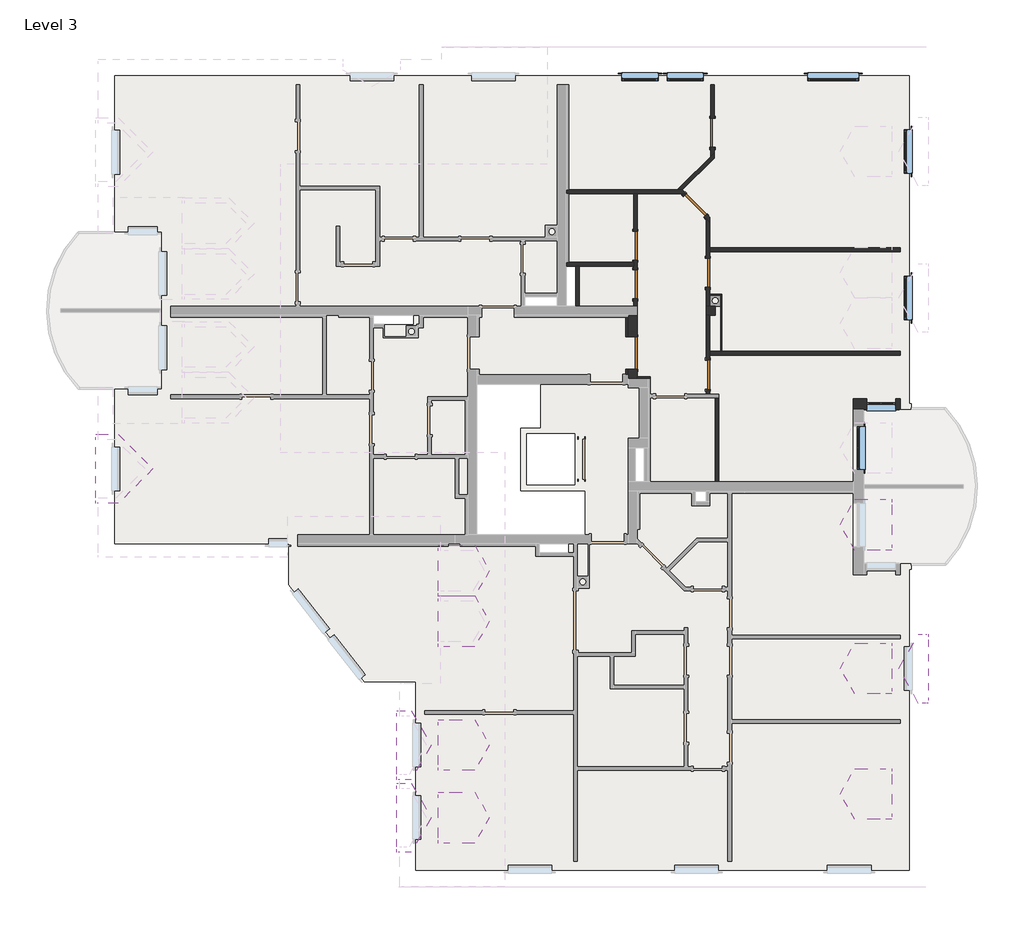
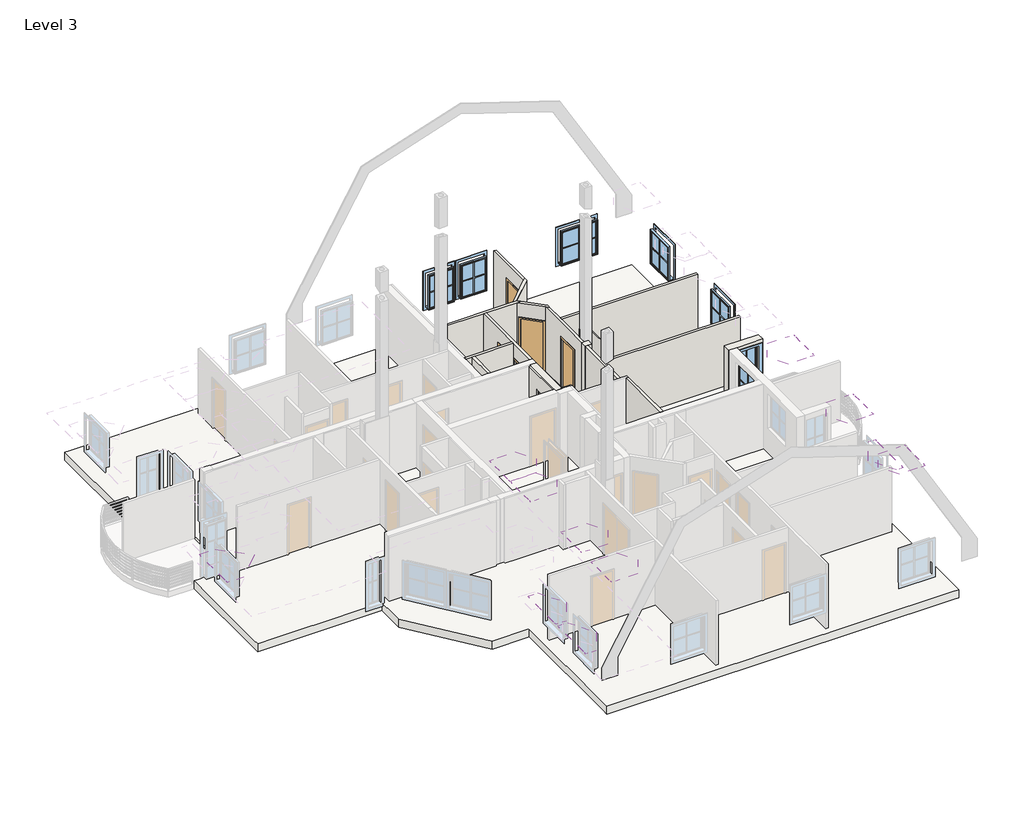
# One storey, part 3 of 5: 19 walls, 11 roofs, 7 doors, 7 windows, 1 slab.
"""IFC4 building model written with IfcOpenShell, lengths in millimetres."""

from ifc_helpers import new_model, si_unit, frame, origin, place, context, project, spatial, polyline, outline, extrude, faceted_brep, transform, mapped, element, save
from components import standard_door_sd_800x2000_6a16926d, standard_door_sd_800x2000_80f4ff25, standard_door_sd_900x2000_a6683946, standard_window_with_mullions_d3525f46, standard_window_with_mullions_80486b60, standard_window_with_mullions_12e20a72, window_2_4fa60929

model = new_model("IFC4")

# Units and contexts
model_context = context("Model", 3, world=origin())
ifc_project = project(units=[si_unit("LENGTHUNIT", "METRE", prefix="MILLI")], contexts=[model_context])

# Site, building, storey
site = spatial("IfcSite", under=ifc_project)
building = spatial("IfcBuilding", under=site)
storey = spatial("IfcBuildingStorey", under=building, Name="Level 3", Elevation=8850.0)

# Doors
placement = place(None, origin())
standard_door_sd_800x2000_shape = standard_door_sd_800x2000_6a16926d(model_context)
element("IfcDoor", 1, ObjectType="Standard Door : SD 800x2000", at=placement, inside=storey, context=model_context, shape_type="MappedRepresentation", body=[
    mapped(standard_door_sd_800x2000_shape, transform((1762.8037835, 5063.1824611, 8850.0), x_axis=(0.0, 1.0, 0.0), y_axis=(-1.0, 0.0, 0.0), z_axis=(0.0, 0.0, 1.0))),
])
element("IfcDoor", 2, ObjectType="Standard Door : SD 800x2000", at=placement, inside=storey, context=model_context, shape_type="MappedRepresentation", body=[
    mapped(standard_door_sd_800x2000_shape, transform((3887.8037835, 9237.6290541, 8850.0), x_axis=(0.0, -1.0, 0.0), y_axis=(1.0, 0.0, 0.0), z_axis=(0.0, 0.0, 1.0))),
])
standard_door_sd_800x2000_2_shape = standard_door_sd_800x2000_80f4ff25(model_context)
element("IfcDoor", 3, ObjectType="Standard Door : SD 800x2000", at=placement, inside=storey, context=model_context, shape_type="MappedRepresentation", body=[
    mapped(standard_door_sd_800x2000_2_shape, transform((3762.8037835, 2576.2076972, 8850.0), x_axis=(0.0, -1.0, 0.0), y_axis=(1.0, 0.0, 0.0), z_axis=(0.0, 0.0, 1.0))),
])
element("IfcDoor", 4, ObjectType="Standard Door : SD 800x2000", at=placement, inside=storey, context=model_context, shape_type="MappedRepresentation", body=[
    mapped(standard_door_sd_800x2000_2_shape, transform((3762.8037835, 5382.3912195, 8850.0), x_axis=(0.0, -1.0, 0.0), y_axis=(1.0, 0.0, 0.0), z_axis=(0.0, 0.0, 1.0))),
])
element("IfcDoor", 5, ObjectType="Standard Door : SD 800x2000", at=placement, inside=storey, context=model_context, shape_type="MappedRepresentation", body=[
    mapped(standard_door_sd_800x2000_2_shape, transform((3410.8458954, 7240.2976203, 8850.0), x_axis=(0.7071067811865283, -0.7071067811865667, 0.0), y_axis=(0.7071067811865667, 0.7071067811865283, 0.0), z_axis=(0.0, 0.0, 1.0))),
])
element("IfcDoor", 6, ObjectType="Standard Door : SD 800x2000", at=placement, inside=storey, context=model_context, shape_type="MappedRepresentation", body=[
    mapped(standard_door_sd_800x2000_2_shape, transform((1762.8037835, 6127.9240135, 8850.0), x_axis=(0.0, -1.0, 0.0), y_axis=(1.0, 0.0, 0.0), z_axis=(0.0, 0.0, 1.0))),
])
standard_door_sd_900x2000_shape = standard_door_sd_900x2000_a6683946(model_context)
element("IfcDoor", 7, ObjectType="Standard Door : SD 900x2000", at=placement, inside=storey, context=model_context, shape_type="MappedRepresentation", body=[
    mapped(standard_door_sd_900x2000_shape, transform((1687.8037835, 3171.1987133, 8850.0), x_axis=(0.0, 1.0, 0.0), y_axis=(-1.0, 0.0, 0.0), z_axis=(0.0, 0.0, 1.0))),
])

# Roofs
element("IfcRoof", 8, ObjectType="Dormer", at=placement, inside=storey, context=model_context, shape_type="Brep", body=[
    faceted_brep([(-13107.1962165, 929.8653683, 10859.1168825), (-13107.1962165, 779.8653683, 10859.1168825), (-13107.1962165, 779.8653683, 11350.0), (-13107.1962165, -20.1346317, 12150.0), (-13107.1962165, -820.1346317, 11350.0), (-13107.1962165, -820.1346317, 10859.1168825), (-13107.1962165, -970.1346317, 10859.1168825), (-13107.1962165, -970.1346317, 11412.1320344), (-13107.1962165, -20.1346317, 12362.1320344), (-13107.1962165, 929.8653683, 11412.1320344), (-12484.1810646, 929.8653683, 11412.1320344), (-13037.1962165, 929.8653683, 10859.1168825), (-11534.1810646, -20.1346317, 12362.1320344), (-12484.1810646, -970.1346317, 11412.1320344), (-13037.1962165, -970.1346317, 10859.1168825), (-13037.1962165, -820.1346317, 10859.1168825), (-12546.313099, -820.1346317, 11350.0), (-11746.313099, -20.1346317, 12150.0), (-12546.313099, 779.8653683, 11350.0), (-13037.1962165, 779.8653683, 10859.1168825)], [[[0, 1, 2, 3, 4, 5, 6, 7, 8, 9]], [[10, 11, 0, 9]], [[12, 10, 9, 8]], [[13, 12, 8, 7]], [[14, 13, 7, 6]], [[15, 14, 6, 5]], [[16, 15, 5, 4]], [[17, 16, 4, 3]], [[18, 17, 3, 2]], [[19, 18, 2, 1]], [[11, 19, 1, 0]], [[11, 10, 12, 13, 14, 15, 16, 17, 18, 19]]]),
])
element("IfcRoof", 9, ObjectType="Dormer", at=placement, inside=storey, context=model_context, shape_type="Brep", body=[
    faceted_brep([(-4807.1962165, -8582.3709452, 10859.1168825), (-4807.1962165, -8582.3709452, 11412.1320344), (-4807.1962165, -7632.3709452, 12362.1320344), (-4807.1962165, -6682.3709452, 11412.1320344), (-4807.1962165, -6682.3709452, 10859.1168825), (-4807.1962165, -6832.3709452, 10859.1168825), (-4807.1962165, -6832.3709452, 11350.0), (-4807.1962165, -7632.3709452, 12150.0), (-4807.1962165, -8432.3709452, 11350.0), (-4807.1962165, -8432.3709452, 10859.1168825), (-4737.1962165, -8582.3709452, 10859.1168825), (-4417.9127697, -8582.3709452, 11412.1320344), (-3869.430014, -7632.3709452, 12362.1320344), (-4417.9127697, -6682.3709452, 11412.1320344), (-4737.1962165, -6682.3709452, 10859.1168825), (-4737.1962165, -6832.3709452, 10859.1168825), (-4453.7847165, -6832.3709452, 11350.0), (-3991.9045011, -7632.3709452, 12150.0), (-4453.7847165, -8432.3709452, 11350.0), (-4737.1962165, -8432.3709452, 10859.1168825)], [[[0, 1, 2, 3, 4, 5, 6, 7, 8, 9]], [[1, 0, 10, 11]], [[2, 1, 11, 12]], [[3, 2, 12, 13]], [[4, 3, 13, 14]], [[5, 4, 14, 15]], [[6, 5, 15, 16]], [[7, 6, 16, 17]], [[8, 7, 17, 18]], [[9, 8, 18, 19]], [[0, 9, 19, 10]], [[10, 19, 18, 17, 16, 15, 14, 13, 12, 11]]]),
])
element("IfcRoof", 10, ObjectType="Dormer", at=placement, inside=storey, context=model_context, shape_type="Brep", body=[
    faceted_brep([(-4807.1962165, -10582.3709452, 10859.1168825), (-4807.1962165, -10582.3709452, 11412.1320344), (-4807.1962165, -9632.3709452, 12362.1320344), (-4807.1962165, -8682.3709452, 11412.1320344), (-4807.1962165, -8682.3709452, 10859.1168825), (-4807.1962165, -8832.3709452, 10859.1168825), (-4807.1962165, -8832.3709452, 11350.0), (-4807.1962165, -9632.3709452, 12150.0), (-4807.1962165, -10432.3709452, 11350.0), (-4807.1962165, -10432.3709452, 10859.1168825), (-4737.1962165, -10582.3709452, 10859.1168825), (-4417.9127697, -10582.3709452, 11412.1320344), (-3869.430014, -9632.3709452, 12362.1320344), (-4417.9127697, -8682.3709452, 11412.1320344), (-4737.1962165, -8682.3709452, 10859.1168825), (-4737.1962165, -8832.3709452, 10859.1168825), (-4453.7847165, -8832.3709452, 11350.0), (-3991.9045011, -9632.3709452, 12150.0), (-4453.7847165, -10432.3709452, 11350.0), (-4737.1962165, -10432.3709452, 10859.1168825)], [[[0, 1, 2, 3, 4, 5, 6, 7, 8, 9]], [[1, 0, 10, 11]], [[2, 1, 11, 12]], [[3, 2, 12, 13]], [[4, 3, 13, 14]], [[5, 4, 14, 15]], [[6, 5, 15, 16]], [[7, 6, 16, 17]], [[8, 7, 17, 18]], [[9, 8, 18, 19]], [[0, 9, 19, 10]], [[10, 19, 18, 17, 16, 15, 14, 13, 12, 11]]]),
])
element("IfcRoof", 11, ObjectType="Dormer", at=placement, inside=storey, context=model_context, shape_type="Brep", body=[
    faceted_brep([(-3668.9496412, -3527.3709459, 13245.9738747), (-3668.9496412, -3527.3709459, 14450.0), (-3668.9496412, -2827.3709459, 15150.0), (-3668.9496412, -2127.3709459, 14450.0), (-3668.9496412, -2127.3709459, 13239.8778747), (-3668.9496412, -2277.3709459, 13239.8778747), (-3668.9496412, -2277.3709459, 14387.8679656), (-3668.9496412, -2827.3709459, 14937.8679656), (-3668.9496412, -3377.3709459, 14387.8679656), (-3668.9496412, -3377.3709459, 13245.9738747), (-3359.1436895, -3527.3709459, 13245.9738747), (-2663.998882, -3527.3709459, 14450.0), (-2259.8536936, -2827.3709459, 15150.0), (-2663.998882, -2127.3709459, 14450.0), (-3362.6632168, -2127.3709459, 13239.8778747), (-3362.6632168, -2277.3709459, 13239.8778747), (-2699.8708287, -2277.3709459, 14387.8679656), (-2382.3281807, -2827.3709459, 14937.8679656), (-2699.8708287, -3377.3709459, 14387.8679656), (-3359.1436895, -3377.3709459, 13245.9738747)], [[[0, 1, 2, 3, 4, 5, 6, 7, 8, 9]], [[1, 0, 10, 11]], [[2, 1, 11, 12]], [[3, 2, 12, 13]], [[4, 3, 13, 14]], [[5, 4, 14, 15]], [[6, 5, 15, 16]], [[7, 6, 16, 17]], [[8, 7, 17, 18]], [[9, 8, 18, 19]], [[0, 9, 19, 10]], [[10, 19, 18, 17, 16, 15, 14, 13, 12, 11]]]),
])
element("IfcRoof", 12, ObjectType="Dormer", at=placement, inside=storey, context=model_context, shape_type="Brep", body=[
    faceted_brep([(-3668.9496412, -4922.3709459, 13245.9738747), (-3668.9496412, -4922.3709459, 14450.0), (-3668.9496412, -4222.3709459, 15150.0), (-3668.9496412, -3522.3709459, 14450.0), (-3668.9496412, -3522.3709459, 13239.8778747), (-3668.9496412, -3672.3709459, 13239.8778747), (-3668.9496412, -3672.3709459, 14387.8679656), (-3668.9496412, -4222.3709459, 14937.8679656), (-3668.9496412, -4772.3709459, 14387.8679656), (-3668.9496412, -4772.3709459, 13245.9738747), (-3359.1436895, -4922.3709459, 13245.9738747), (-2663.998882, -4922.3709459, 14450.0), (-2259.8536936, -4222.3709459, 15150.0), (-2663.998882, -3522.3709459, 14450.0), (-3362.6632168, -3522.3709459, 13239.8778747), (-3362.6632168, -3672.3709459, 13239.8778747), (-2699.8708287, -3672.3709459, 14387.8679656), (-2382.3281807, -4222.3709459, 14937.8679656), (-2699.8708287, -4772.3709459, 14387.8679656), (-3359.1436895, -4772.3709459, 13245.9738747)], [[[0, 1, 2, 3, 4, 5, 6, 7, 8, 9]], [[1, 0, 10, 11]], [[2, 1, 11, 12]], [[3, 2, 12, 13]], [[4, 3, 13, 14]], [[5, 4, 14, 15]], [[6, 5, 15, 16]], [[7, 6, 16, 17]], [[8, 7, 17, 18]], [[9, 8, 18, 19]], [[0, 9, 19, 10]], [[10, 19, 18, 17, 16, 15, 14, 13, 12, 11]]]),
])
element("IfcRoof", 13, ObjectType="Dormer", at=placement, inside=storey, context=model_context, shape_type="Brep", body=[
    faceted_brep([(-3668.9496412, -8332.3709452, 13245.9738747), (-3668.9496412, -8332.3709452, 14450.0), (-3668.9496412, -7632.3709452, 15150.0), (-3668.9496412, -6932.3709452, 14450.0), (-3668.9496412, -6932.3709452, 13239.8778747), (-3668.9496412, -7082.3709452, 13239.8778747), (-3668.9496412, -7082.3709452, 14387.8679656), (-3668.9496412, -7632.3709452, 14937.8679656), (-3668.9496412, -8182.3709452, 14387.8679656), (-3668.9496412, -8182.3709452, 13245.9738747), (-3359.1436895, -8332.3709452, 13245.9738747), (-2663.998882, -8332.3709452, 14450.0), (-2259.8536936, -7632.3709452, 15150.0), (-2663.998882, -6932.3709452, 14450.0), (-3362.6632168, -6932.3709452, 13239.8778747), (-3362.6632168, -7082.3709452, 13239.8778747), (-2699.8708287, -7082.3709452, 14387.8679656), (-2382.3281807, -7632.3709452, 14937.8679656), (-2699.8708287, -8182.3709452, 14387.8679656), (-3359.1436895, -8182.3709452, 13245.9738747)], [[[0, 1, 2, 3, 4, 5, 6, 7, 8, 9]], [[1, 0, 10, 11]], [[2, 1, 11, 12]], [[3, 2, 12, 13]], [[4, 3, 13, 14]], [[5, 4, 14, 15]], [[6, 5, 15, 16]], [[7, 6, 16, 17]], [[8, 7, 17, 18]], [[9, 8, 18, 19]], [[0, 9, 19, 10]], [[10, 19, 18, 17, 16, 15, 14, 13, 12, 11]]]),
])
element("IfcRoof", 14, ObjectType="Dormer", at=placement, inside=storey, context=model_context, shape_type="Brep", body=[
    faceted_brep([(-3668.9496412, -10332.3709452, 13245.9738747), (-3668.9496412, -10332.3709452, 14450.0), (-3668.9496412, -9632.3709452, 15150.0), (-3668.9496412, -8932.3709452, 14450.0), (-3668.9496412, -8932.3709452, 13239.8778747), (-3668.9496412, -9082.3709452, 13239.8778747), (-3668.9496412, -9082.3709452, 14387.8679656), (-3668.9496412, -9632.3709452, 14937.8679656), (-3668.9496412, -10182.3709452, 14387.8679656), (-3668.9496412, -10182.3709452, 13245.9738747), (-3359.1436895, -10332.3709452, 13245.9738747), (-2663.998882, -10332.3709452, 14450.0), (-2259.8536936, -9632.3709452, 15150.0), (-2663.998882, -8932.3709452, 14450.0), (-3362.6632168, -8932.3709452, 13239.8778747), (-3362.6632168, -9082.3709452, 13239.8778747), (-2699.8708287, -9082.3709452, 14387.8679656), (-2382.3281807, -9632.3709452, 14937.8679656), (-2699.8708287, -10182.3709452, 14387.8679656), (-3359.1436895, -10182.3709452, 13245.9738747)], [[[0, 1, 2, 3, 4, 5, 6, 7, 8, 9]], [[1, 0, 10, 11]], [[2, 1, 11, 12]], [[3, 2, 12, 13]], [[4, 3, 13, 14]], [[5, 4, 14, 15]], [[6, 5, 15, 16]], [[7, 6, 16, 17]], [[8, 7, 17, 18]], [[9, 8, 18, 19]], [[0, 9, 19, 10]], [[10, 19, 18, 17, 16, 15, 14, 13, 12, 11]]]),
])
element("IfcRoof", 15, ObjectType="Dormer", at=placement, inside=storey, context=model_context, shape_type="Brep", body=[
    faceted_brep([(8827.3155772, -9682.3709459, 13245.9738747), (8827.3155772, -9532.3709459, 13245.9738747), (8827.3155772, -9532.3709459, 14387.8679656), (8827.3155772, -8982.3709459, 14937.8679656), (8827.3155772, -8432.3709459, 14387.8679656), (8827.3155772, -8432.3709459, 13239.8778747), (8827.3155772, -8282.3709459, 13239.8778747), (8827.3155772, -8282.3709459, 14450.0), (8827.3155772, -8982.3709459, 15150.0), (8827.3155772, -9682.3709459, 14450.0), (7811.3598736, -9682.3709459, 14450.0), (8506.5046811, -9682.3709459, 13245.9738747), (7407.2146852, -8982.3709459, 15150.0), (7811.3598736, -8282.3709459, 14450.0), (8510.0242084, -8282.3709459, 13239.8778747), (8510.0242084, -8432.3709459, 13239.8778747), (7847.2318204, -8432.3709459, 14387.8679656), (7529.6891723, -8982.3709459, 14937.8679656), (7847.2318204, -9532.3709459, 14387.8679656), (8506.5046811, -9532.3709459, 13245.9738747)], [[[0, 1, 2, 3, 4, 5, 6, 7, 8, 9]], [[10, 11, 0, 9]], [[12, 10, 9, 8]], [[13, 12, 8, 7]], [[14, 13, 7, 6]], [[15, 14, 6, 5]], [[16, 15, 5, 4]], [[17, 16, 4, 3]], [[18, 17, 3, 2]], [[19, 18, 2, 1]], [[11, 19, 1, 0]], [[11, 10, 12, 13, 14, 15, 16, 17, 18, 19]]]),
])
element("IfcRoof", 16, ObjectType="Dormer", at=placement, inside=storey, context=model_context, shape_type="Brep", body=[
    faceted_brep([(8827.3155772, -6224.0530367, 13245.9738747), (8827.3155772, -6074.0530367, 13245.9738747), (8827.3155772, -6074.0530367, 14387.8679656), (8827.3155772, -5524.0530367, 14937.8679656), (8827.3155772, -4974.0530367, 14387.8679656), (8827.3155772, -4974.0530367, 13239.8778747), (8827.3155772, -4824.0530367, 13239.8778747), (8827.3155772, -4824.0530367, 14450.0), (8827.3155772, -5524.0530367, 15150.0), (8827.3155772, -6224.0530367, 14450.0), (7811.3598736, -6224.0530367, 14450.0), (8506.5046811, -6224.0530367, 13245.9738747), (7407.2146852, -5524.0530367, 15150.0), (7811.3598736, -4824.0530367, 14450.0), (8510.0242084, -4824.0530367, 13239.8778747), (8510.0242084, -4974.0530367, 13239.8778747), (7847.2318204, -4974.0530367, 14387.8679656), (7529.6891723, -5524.0530367, 14937.8679656), (7847.2318204, -6074.0530367, 14387.8679656), (8506.5046811, -6074.0530367, 13245.9738747)], [[[0, 1, 2, 3, 4, 5, 6, 7, 8, 9]], [[10, 11, 0, 9]], [[12, 10, 9, 8]], [[13, 12, 8, 7]], [[14, 13, 7, 6]], [[15, 14, 6, 5]], [[16, 15, 5, 4]], [[17, 16, 4, 3]], [[18, 17, 3, 2]], [[19, 18, 2, 1]], [[11, 19, 1, 0]], [[11, 10, 12, 13, 14, 15, 16, 17, 18, 19]]]),
])
element("IfcRoof", 17, ObjectType="Dormer", at=placement, inside=storey, context=model_context, shape_type="Brep", body=[
    faceted_brep([(8827.3155772, -2263.5367865, 13245.9738747), (8827.3155772, -2113.5367865, 13245.9738747), (8827.3155772, -2113.5367865, 14387.8679656), (8827.3155772, -1563.5367865, 14937.8679656), (8827.3155772, -1013.5367865, 14387.8679656), (8827.3155772, -1013.5367865, 13239.8778747), (8827.3155772, -863.5367865, 13239.8778747), (8827.3155772, -863.5367865, 14450.0), (8827.3155772, -1563.5367865, 15150.0), (8827.3155772, -2263.5367865, 14450.0), (7811.3598736, -2263.5367865, 14450.0), (8506.5046811, -2263.5367865, 13245.9738747), (7407.2146852, -1563.5367865, 15150.0), (7811.3598736, -863.5367865, 14450.0), (8510.0242084, -863.5367865, 13239.8778747), (8510.0242084, -1013.5367865, 13239.8778747), (7847.2318204, -1013.5367865, 14387.8679656), (7529.6891723, -1563.5367865, 14937.8679656), (7847.2318204, -2113.5367865, 14387.8679656), (8506.5046811, -2113.5367865, 13245.9738747)], [[[0, 1, 2, 3, 4, 5, 6, 7, 8, 9]], [[10, 11, 0, 9]], [[12, 10, 9, 8]], [[13, 12, 8, 7]], [[14, 13, 7, 6]], [[15, 14, 6, 5]], [[16, 15, 5, 4]], [[17, 16, 4, 3]], [[18, 17, 3, 2]], [[19, 18, 2, 1]], [[11, 19, 1, 0]], [[11, 10, 12, 13, 14, 15, 16, 17, 18, 19]]]),
])
element("IfcRoof", 18, ObjectType="Dormer", at=placement, inside=storey, context=model_context, shape_type="Brep", body=[
    faceted_brep([(9832.8037835, -6474.0530367, 10859.1168825), (9832.8037835, -6324.0530367, 10859.1168825), (9832.8037835, -6324.0530367, 11350.0), (9832.8037835, -5524.0530367, 12150.0), (9832.8037835, -4724.0530367, 11350.0), (9832.8037835, -4724.0530367, 10859.1168825), (9832.8037835, -4574.0530367, 10859.1168825), (9832.8037835, -4574.0530367, 11412.1320344), (9832.8037835, -5524.0530367, 12362.1320344), (9832.8037835, -6474.0530367, 11412.1320344), (9565.2737613, -6474.0530367, 11412.1320344), (9762.8037835, -6474.0530367, 11070.0), (9762.8037835, -6474.0530367, 10859.1168825), (9016.7910056, -5524.0530367, 12362.1320344), (9565.2737613, -4574.0530367, 11412.1320344), (9762.8037835, -4574.0530367, 10859.1168825), (9762.8037835, -4574.0530367, 11070.0), (9762.8037835, -4724.0530367, 10859.1168825), (9601.1457081, -4724.0530367, 11350.0), (9762.8037835, -4724.0530367, 11070.0), (9139.2654927, -5524.0530367, 12150.0), (9601.1457081, -6324.0530367, 11350.0), (9762.8037835, -6324.0530367, 10859.1168825), (9762.8037835, -6324.0530367, 11070.0)], [[[0, 1, 2, 3, 4, 5, 6, 7, 8, 9]], [[10, 11, 12, 0, 9]], [[13, 10, 9, 8]], [[14, 13, 8, 7]], [[15, 16, 14, 7, 6]], [[17, 15, 6, 5]], [[18, 19, 17, 5, 4]], [[20, 18, 4, 3]], [[21, 20, 3, 2]], [[22, 23, 21, 2, 1]], [[12, 22, 1, 0]], [[12, 11, 23, 22]], [[11, 10, 13, 14, 16, 19, 18, 20, 21, 23]], [[16, 15, 17, 19]]]),
])

# Slab
element("IfcSlab", 19, ObjectType="STB200 + 120", at=placement, inside=storey, context=model_context, shape_type="Brep", body=[
    faceted_brep([(9312.8037835, 10817.6290541, 8530.0), (9312.8037835, 10567.6290541, 8530.0), (9312.8037835, 1767.6290541, 8530.0), (9362.8037835, 1767.6290541, 8530.0), (9362.8037835, 1667.6290541, 8530.0), (8012.8037835, 1667.6290541, 8530.0), (8012.8037835, -2682.3709459, 8530.0), (9362.8037835, -2682.3709459, 8530.0), (9362.8037835, -2782.3709459, 8530.0), (9312.8037835, -2782.3709459, 8530.0), (9312.8037835, -11082.3709459, 8530.0), (9062.8037835, -11082.3709459, 8530.0), (-4287.1962165, -11082.3709459, 8530.0), (-4287.1962165, -10832.3709459, 8530.0), (-4287.1962165, -5882.3709459, 8530.0), (-4337.1962165, -5882.3709459, 8530.0), (-5712.7420262, -5882.3709459, 8530.0), (-5907.1864707, -5632.3709459, 8530.0), (-7787.1962165, -3215.2155584, 8530.0), (-7787.1962165, -2808.0100494, 8530.0), (-7787.1962165, -2082.3709459, 8530.0), (-7837.1962165, -2082.3709459, 8530.0), (-12587.1962165, -2082.3709459, 8530.0), (-12587.1962165, -1832.3709459, 8530.0), (-12587.1962165, 2167.6290541, 8530.0), (-12337.1962165, 2167.6290541, 8530.0), (-11287.1962165, 2167.6290541, 8530.0), (-11287.1962165, 2217.6290541, 8530.0), (-11287.1962165, 6467.6290541, 8530.0), (-11287.1962165, 6517.6290541, 8530.0), (-12587.1962165, 6517.6290541, 8530.0), (-12587.1962165, 6767.6290541, 8530.0), (-12587.1962165, 10817.6290541, 8530.0), (-12337.1962165, 10817.6290541, 8530.0), (-2607.1962165, 2317.6290541, 8530.0), (-2607.1962165, -1832.3709459, 8530.0), (362.8037835, -1832.3709459, 8530.0), (362.8037835, -632.3709459, 8530.0), (-1407.1962165, -632.3709459, 8530.0), (-1407.1962165, 1117.6290541, 8530.0), (-857.1962165, 1117.6290541, 8530.0), (-857.1962165, 2317.6290541, 8530.0), (-387.1962165, 4717.6290541, 8530.0), (-1287.1962165, 4717.6290541, 8530.0), (-1287.1962165, 4467.6290541, 8530.0), (-387.1962165, 4467.6290541, 8530.0), (112.8037835, 4467.6290541, 8530.0), (112.8037835, 5567.6290541, 8530.0), (-137.1962165, 5567.6290541, 8530.0), (-137.1962165, 4467.6290541, 8530.0), (-4357.1962165, 4217.6290541, 8530.0), (-5457.1962165, 4217.6290541, 8530.0), (-5457.1962165, 3967.6290541, 8530.0), (-4357.1962165, 3967.6290541, 8530.0), (2012.8037835, 567.6290541, 8530.0), (1762.8087381, 567.6290541, 8530.0), (1762.8087381, -382.3709459, 8530.0), (2012.8037835, -382.3709459, 8530.0), (3712.8037835, -632.3709459, 8530.0), (3412.8037835, -632.3709459, 8530.0), (3412.8037835, -932.3709459, 8530.0), (3712.8037835, -932.3709459, 8530.0), (-86.4381272, -2082.3709459, 8530.0), (-886.4381272, -2082.3709459, 8530.0), (-886.4381272, -2332.3709459, 8530.0), (-86.4381272, -2332.3709459, 8530.0), (87.8037835, 947.6290541, 8530.0), (-1237.1962165, 947.6290541, 8530.0), (-1237.1962165, -462.3709459, 8530.0), (87.8037835, -462.3709459, 8530.0), (9312.8037835, 1767.6290541, 8850.0), (9312.8037835, 10567.6290541, 8850.0), (9312.8037835, 10817.6290541, 8850.0), (-12337.1962165, 10817.6290541, 8850.0), (-12587.1962165, 10817.6290541, 8850.0), (-12587.1962165, 6767.6290541, 8850.0), (-12587.1962165, 6517.6290541, 8850.0), (-12207.370388, 6517.6290541, 8850.0), (-11407.370388, 6517.6290541, 8850.0), (-11287.1962165, 6517.6290541, 8850.0), (-11287.1962165, 6467.6290541, 8850.0), (-11287.1962165, 2217.6290541, 8850.0), (-11287.1962165, 2167.6290541, 8850.0), (-11407.3703663, 2167.6290541, 8850.0), (-12207.3703663, 2167.6290541, 8850.0), (-12337.1962165, 2167.6290541, 8850.0), (-12587.1962165, 2167.6290541, 8850.0), (-12587.1962165, -1832.3709459, 8850.0), (-12587.1962165, -2082.3709459, 8850.0), (-8337.1962165, -2082.3709459, 8850.0), (-7837.1962165, -2082.3709459, 8850.0), (-7787.1962165, -2082.3709459, 8850.0), (-7787.1962165, -2808.0100494, 8850.0), (-7787.1962165, -3215.2155584, 8850.0), (-5907.1864707, -5632.3709459, 8850.0), (-5712.7420262, -5882.3709459, 8850.0), (-4337.1962165, -5882.3709459, 8850.0), (-4287.1962165, -5882.3709459, 8850.0), (-4287.1962165, -10832.3709459, 8850.0), (-4287.1962165, -11082.3709459, 8850.0), (9062.8037835, -11082.3709459, 8850.0), (9312.8037835, -11082.3709459, 8850.0), (9312.8037835, -2782.3709459, 8850.0), (9362.8037835, -2782.3709459, 8850.0), (9362.8037835, -2632.3709459, 8850.0), (9062.8037835, -2632.3709459, 8850.0), (8932.977935, -2632.3709459, 8850.0), (8132.977935, -2632.3709459, 8850.0), (8062.8037835, -2632.3709459, 8850.0), (8062.8037835, 1617.6290541, 8850.0), (9062.8037835, 1617.6290541, 8850.0), (9362.8037835, 1617.6290541, 8850.0), (9362.8037835, 1767.6290541, 8850.0), (-2607.1962165, -1832.3709459, 8850.0), (-2607.1962165, 2317.6290541, 8850.0), (-857.1962165, 2317.6290541, 8850.0), (-857.1962165, 1117.6290541, 8850.0), (-1407.1962165, 1117.6290541, 8850.0), (-1407.1962165, -632.3709459, 8850.0), (362.8037835, -632.3709459, 8850.0), (362.8037835, -1832.3709459, 8850.0), (-1287.1962165, 4717.6290541, 8850.0), (-387.1962165, 4717.6290541, 8850.0), (-387.1962165, 4467.6290541, 8850.0), (-1287.1962165, 4467.6290541, 8850.0), (112.8037835, 5567.6290541, 8850.0), (112.8037835, 4467.6290541, 8850.0), (-137.1962165, 4467.6290541, 8850.0), (-137.1962165, 5567.6290541, 8850.0), (-5457.1962165, 4217.6290541, 8850.0), (-4357.1962165, 4217.6290541, 8850.0), (-4357.1962165, 3967.6290541, 8850.0), (-5457.1962165, 3967.6290541, 8850.0), (1762.8087381, 567.6290541, 8850.0), (2012.8037835, 567.6290541, 8850.0), (2012.8037835, -382.3709459, 8850.0), (1762.8087381, -382.3709459, 8850.0), (3412.8037835, -632.3709459, 8850.0), (3712.8037835, -632.3709459, 8850.0), (3712.8037835, -932.3709459, 8850.0), (3412.8037835, -932.3709459, 8850.0), (-886.4381272, -2082.3709459, 8850.0), (-86.4381272, -2082.3709459, 8850.0), (-86.4381272, -2332.3709459, 8850.0), (-886.4381272, -2332.3709459, 8850.0), (-1237.1962165, 947.6290541, 8850.0), (87.8037835, 947.6290541, 8850.0), (87.8037835, -462.3709459, 8850.0), (-1237.1962165, -462.3709459, 8850.0), (8062.8037835, 1617.6290541, 8750.0), (9362.8037835, 1617.6290541, 8750.0), (8062.8037835, -2632.3709459, 8750.0), (9362.8037835, -2632.3709459, 8750.0), (-12587.1962165, 2167.6290541, 8750.0), (-11287.1962165, 2167.6290541, 8750.0), (-11287.1962165, 6517.6290541, 8750.0), (-12587.1962165, 6517.6290541, 8750.0), (9362.8037835, 1667.6290541, 8750.0), (9362.8037835, -2682.3709459, 8750.0), (8012.8037835, -2682.3709459, 8750.0), (8012.8037835, 1667.6290541, 8750.0)], [[[0, 1, 2, 3, 4, 5, 6, 7, 8, 9, 10, 11, 12, 13, 14, 15, 16, 17, 18, 19, 20, 21, 22, 23, 24, 25, 26, 27, 28, 29, 30, 31, 32, 33], [34, 35, 36, 37, 38, 39, 40, 41], [42, 43, 44, 45], [46, 47, 48, 49], [50, 51, 52, 53], [54, 55, 56, 57], [58, 59, 60, 61], [62, 63, 64, 65], [66, 67, 68, 69]], [[70, 71, 72, 73, 74, 75, 76, 77, 78, 79, 80, 81, 82, 83, 84, 85, 86, 87, 88, 89, 90, 91, 92, 93, 94, 95, 96, 97, 98, 99, 100, 101, 102, 103, 104, 105, 106, 107, 108, 109, 110, 111, 112], [113, 114, 115, 116, 117, 118, 119, 120], [121, 122, 123, 124], [125, 126, 127, 128], [129, 130, 131, 132], [133, 134, 135, 136], [137, 138, 139, 140], [141, 142, 143, 144], [145, 146, 147, 148]], [[2, 1, 0, 72, 71, 70]], [[111, 110, 109, 149, 150]], [[109, 108, 151, 149]], [[108, 107, 106, 105, 104, 152, 151]], [[10, 9, 102, 101]], [[12, 11, 10, 101, 100, 99]], [[14, 13, 12, 99, 98, 97]], [[16, 15, 14, 97, 96, 95]], [[18, 17, 16, 95, 94, 93]], [[20, 19, 18, 93, 92, 91]], [[22, 21, 20, 91, 90, 89, 88]], [[24, 23, 22, 88, 87, 86, 153]], [[26, 25, 24, 153, 86, 85, 84, 83, 82, 154]], [[29, 28, 27, 26, 154, 82, 81, 80, 79, 155]], [[30, 29, 155, 79, 78, 77, 76, 156]], [[32, 31, 30, 156, 76, 75, 74]], [[0, 33, 32, 74, 73, 72]], [[35, 34, 114, 113]], [[36, 35, 113, 120]], [[37, 36, 120, 119]], [[38, 37, 119, 118]], [[39, 38, 118, 117]], [[40, 39, 117, 116]], [[41, 40, 116, 115]], [[34, 41, 115, 114]], [[43, 42, 122, 121]], [[44, 43, 121, 124]], [[45, 44, 124, 123]], [[42, 45, 123, 122]], [[47, 46, 126, 125]], [[48, 47, 125, 128]], [[49, 48, 128, 127]], [[46, 49, 127, 126]], [[51, 50, 130, 129]], [[52, 51, 129, 132]], [[53, 52, 132, 131]], [[50, 53, 131, 130]], [[55, 54, 134, 133]], [[56, 55, 133, 136]], [[57, 56, 136, 135]], [[54, 57, 135, 134]], [[59, 58, 138, 137]], [[60, 59, 137, 140]], [[61, 60, 140, 139]], [[58, 61, 139, 138]], [[63, 62, 142, 141]], [[64, 63, 141, 144]], [[65, 64, 144, 143]], [[62, 65, 143, 142]], [[3, 2, 70, 112]], [[112, 111, 150, 157, 4, 3]], [[104, 103, 8, 7, 158, 152]], [[9, 8, 103, 102]], [[67, 66, 146, 145]], [[68, 67, 145, 148]], [[69, 68, 148, 147]], [[66, 69, 147, 146]], [[159, 160, 157, 150, 149, 151, 152, 158]], [[6, 159, 158, 7]], [[160, 159, 6, 5]], [[160, 5, 4, 157]]]),
])

# Walls
element("IfcWall", 20, ObjectType="Exterior - 250+50mm", at=placement, inside=storey, context=model_context, shape_type="Brep", body=[
    faceted_brep([(9062.8037835, 1617.6290541, 8850.0), (8932.977935, 1617.6290541, 8850.0), (8932.977935, 1917.6290541, 8850.0), (9062.8037835, 1917.6290541, 8850.0), (8132.977935, 1617.6290541, 8850.0), (8062.8037835, 1617.6290541, 8850.0), (7762.8037835, 1617.6290541, 8850.0), (7762.8037835, 1917.6290541, 8850.0), (8132.977935, 1917.6290541, 8850.0), (8932.977935, 1917.6290541, 11250.0), (8132.977935, 1917.6290541, 11250.0), (7762.8037835, 1917.6290541, 11480.0), (9062.8037835, 1917.6290541, 11480.0), (8932.977935, 1617.6290541, 11250.0), (9062.8037835, 1617.6290541, 11480.0), (8062.8037835, 1617.6290541, 11480.0), (7762.8037835, 1617.6290541, 11480.0), (8132.977935, 1617.6290541, 11250.0)], [[[0, 1, 2, 3]], [[4, 5, 6, 7, 8]], [[3, 2, 9, 10, 8, 7, 11, 12]], [[13, 1, 0, 14, 15, 16, 6, 5, 4, 17]], [[11, 7, 6, 16]], [[3, 12, 14, 0]], [[12, 11, 16, 15, 14]], [[9, 2, 1, 13]], [[10, 9, 13, 17]], [[8, 10, 17, 4]]]),
])
element("IfcWall", 21, ObjectType="Interior - 100mm", at=placement, inside=storey, context=model_context, shape_type="SweptSolid", body=[
    extrude(outline(polyline([(3962.8037835, -382.3709459), (3962.8037835, 1936.2076978), (4062.8037835, 1936.2076978), (4062.8037835, -382.3709459), (3962.8037835, -382.3709459)])), frame((0.0, 0.0, 8850.0), z_axis=(0.0, 0.0, 1.0), x_axis=(1.0, 0.0, 0.0)), (0.0, 0.0, 1.0), 2630.0),
])
element("IfcWall", 22, ObjectType="Interior - 100mm", at=placement, inside=storey, context=model_context, shape_type="Brep", body=[
    faceted_brep([(3154.2251397, 7567.6290541, 8850.0), (3012.8037835, 7567.6290541, 8850.0), (1812.8037835, 7567.6290541, 8850.0), (1712.8037835, 7567.6290541, 8850.0), (-72.1962165, 7567.6290541, 8850.0), (-137.1962165, 7567.6290541, 8850.0), (-137.1962165, 7667.6290541, 8850.0), (2911.5788256, 7667.6290541, 8850.0), (3054.2251397, 7667.6290541, 8850.0), (3154.2251397, 7567.6290541, 11480.0), (3012.8037835, 7567.6290541, 11480.0), (1812.8037835, 7567.6290541, 11480.0), (1712.8037835, 7567.6290541, 11480.0), (-72.1962165, 7567.6290541, 11480.0), (-137.1962165, 7567.6290541, 11480.0), (-137.1962165, 7667.6290541, 11480.0), (2911.5788256, 7667.6290541, 11480.0), (3054.2251397, 7667.6290541, 11480.0)], [[[0, 1, 2, 3, 4, 5, 6, 7, 8]], [[5, 4, 3, 2, 1, 0, 9, 10, 11, 12, 13, 14]], [[6, 15, 16, 17, 8, 7]], [[5, 14, 15, 6]], [[9, 0, 8, 17]], [[14, 13, 12, 11, 10, 9, 17, 16, 15]]]),
])
element("IfcWall", 23, ObjectType="Interior - 100mm", at=placement, inside=storey, context=model_context, shape_type="Brep", body=[
    faceted_brep([(3012.8037835, 7567.6290541, 8850.0), (3154.2251397, 7567.6290541, 8850.0), (3163.3585219, 7558.4956719, 8850.0), (3092.6478438, 7487.7849937, 8850.0), (3812.8037835, 6909.0504103, 8850.0), (3812.8037835, 6767.6290541, 8850.0), (3712.8037835, 6867.6290541, 8850.0), (3658.3332688, 6922.0995688, 8850.0), (3729.0439469, 6992.8102469, 8850.0), (3012.8037835, 7567.6290541, 11480.0), (3092.6478438, 7487.7849937, 10850.0), (3658.3332688, 6922.0995688, 10850.0), (3812.8037835, 6767.6290541, 11480.0), (3712.8037835, 6867.6290541, 11480.0), (3154.2251397, 7567.6290541, 11480.0), (3812.8037835, 6909.0504103, 11480.0), (3729.0439469, 6992.8102469, 10850.0), (3163.3585219, 7558.4956719, 10850.0)], [[[0, 1, 2, 3]], [[4, 5, 6, 7, 8]], [[9, 0, 3, 10, 11, 7, 6, 5, 12, 13]], [[1, 14, 15, 4, 8, 16, 17, 2]], [[0, 9, 14, 1]], [[12, 5, 4, 15]], [[9, 13, 12, 15, 14]], [[11, 16, 8, 7]], [[16, 11, 10, 17]], [[17, 10, 3, 2]]]),
])
element("IfcWall", 24, ObjectType="Interior - 100mm", at=placement, inside=storey, context=model_context, shape_type="Brep", body=[
    faceted_brep([(3712.8037835, 4467.6290541, 8850.0), (3712.8037835, 4982.3912195, 8850.0), (3812.8037835, 4982.3912195, 8850.0), (3812.8037835, 4797.6290541, 8850.0), (3812.8037835, 4767.6290541, 8850.0), (3812.8037835, 4467.6290541, 8850.0), (3712.8037835, 5782.3912195, 8850.0), (3712.8037835, 6867.6290541, 8850.0), (3812.8037835, 6767.6290541, 8850.0), (3812.8037835, 6067.6290541, 8850.0), (3812.8037835, 5967.6290541, 8850.0), (3812.8037835, 5782.3912195, 8850.0), (3712.8037835, 4982.3912195, 10850.0), (3712.8037835, 4467.6290541, 11480.0), (3712.8037835, 6867.6290541, 11480.0), (3712.8037835, 5782.3912195, 10850.0), (3812.8037835, 4982.3912195, 10850.0), (3812.8037835, 5782.3912195, 10850.0), (3812.8037835, 6767.6290541, 11480.0), (3812.8037835, 6067.6290541, 11480.0), (3812.8037835, 5967.6290541, 11480.0), (3812.8037835, 4467.6290541, 11480.0)], [[[0, 1, 2, 3, 4, 5]], [[6, 7, 8, 9, 10, 11]], [[12, 1, 0, 13, 14, 7, 6, 15]], [[5, 4, 3, 2, 16, 17, 11, 10, 9, 8, 18, 19, 20, 21]], [[7, 14, 18, 8]], [[13, 0, 5, 21]], [[14, 13, 21, 20, 19, 18]], [[16, 2, 1, 12]], [[17, 16, 12, 15]], [[11, 17, 15, 6]]]),
])
element("IfcWall", 25, ObjectType="Interior - 100mm", at=placement, inside=storey, context=model_context, shape_type="SweptSolid", body=[
    extrude(outline(polyline([(9062.8037835, 5967.6290541), (3812.8037835, 5967.6290541), (3812.8037835, 6067.6290541), (9062.8037835, 6067.6290541), (9062.8037835, 5967.6290541)])), frame((0.0, 0.0, 8850.0), z_axis=(0.0, 0.0, 1.0), x_axis=(1.0, 0.0, 0.0)), (0.0, 0.0, 1.0), 2630.0),
])
element("IfcWall", 26, ObjectType="Interior - 100mm", at=placement, inside=storey, context=model_context, shape_type="Brep", body=[
    faceted_brep([(1712.8037835, 5463.1824611, 8850.0), (1712.8037835, 5567.6290541, 8850.0), (1712.8037835, 5667.6290541, 8850.0), (1712.8037835, 5727.9240135, 8850.0), (1812.8037835, 5727.9240135, 8850.0), (1812.8037835, 5463.1824611, 8850.0), (1812.8037835, 4663.1824611, 8850.0), (1812.8037835, 4467.6290541, 8850.0), (1712.8037835, 4467.6290541, 8850.0), (1712.8037835, 4663.1824611, 8850.0), (1712.8037835, 6527.9240135, 8850.0), (1712.8037835, 7567.6290541, 8850.0), (1812.8037835, 7567.6290541, 8850.0), (1812.8037835, 6527.9240135, 8850.0), (1712.8037835, 5727.9240135, 10850.0), (1712.8037835, 5463.1824611, 10850.0), (1712.8037835, 4663.1824611, 10850.0), (1712.8037835, 4467.6290541, 11480.0), (1712.8037835, 5567.6290541, 11480.0), (1712.8037835, 5667.6290541, 11480.0), (1712.8037835, 7567.6290541, 11480.0), (1712.8037835, 6527.9240135, 10850.0), (1812.8037835, 5727.9240135, 10850.0), (1812.8037835, 6527.9240135, 10850.0), (1812.8037835, 7567.6290541, 11480.0), (1812.8037835, 4467.6290541, 11480.0), (1812.8037835, 4663.1824611, 10850.0), (1812.8037835, 5463.1824611, 10850.0)], [[[0, 1, 2, 3, 4, 5]], [[6, 7, 8, 9]], [[10, 11, 12, 13]], [[14, 3, 2, 1, 0, 15, 16, 9, 8, 17, 18, 19, 20, 11, 10, 21]], [[5, 4, 22, 23, 13, 12, 24, 25, 7, 6, 26, 27]], [[11, 20, 24, 12]], [[17, 8, 7, 25]], [[20, 19, 18, 17, 25, 24]], [[15, 0, 5, 27]], [[16, 15, 27, 26]], [[9, 16, 26, 6]], [[22, 4, 3, 14]], [[23, 22, 14, 21]], [[13, 23, 21, 10]]]),
])
element("IfcWall", 27, ObjectType="Interior - 100mm", at=placement, inside=storey, context=model_context, shape_type="Brep", body=[
    faceted_brep([(1712.8037835, 5667.6290541, 8850.0), (-137.1962165, 5667.6290541, 8850.0), (-137.1962165, 5667.6290541, 11480.0), (1712.8037835, 5667.6290541, 11480.0), (1712.8037835, 5567.6290541, 8850.0), (1712.8037835, 5567.6290541, 11480.0), (212.8037835, 5567.6290541, 11480.0), (112.8037835, 5567.6290541, 11480.0), (-137.1962165, 5567.6290541, 11480.0), (-137.1962165, 5567.6290541, 8850.0), (112.8037835, 5567.6290541, 8850.0), (212.8037835, 5567.6290541, 8850.0)], [[[0, 1, 2, 3]], [[4, 5, 6, 7, 8, 9, 10, 11]], [[1, 0, 4, 11, 10, 9]], [[2, 1, 9, 8]], [[0, 3, 5, 4]], [[3, 2, 8, 7, 6, 5]]]),
])
element("IfcWall", 28, ObjectType="Interior - 100mm", at=placement, inside=storey, context=model_context, shape_type="SweptSolid", body=[
    extrude(outline(polyline([(112.8037835, 4467.6290541), (112.8037835, 5567.6290541), (212.8037835, 5567.6290541), (212.8037835, 4467.6290541), (112.8037835, 4467.6290541)])), frame((0.0, 0.0, 8850.0), z_axis=(0.0, 0.0, 1.0), x_axis=(1.0, 0.0, 0.0)), (0.0, 0.0, 1.0), 2630.0),
])
element("IfcWall", 29, ObjectType="Interior - 100mm", at=placement, inside=storey, context=model_context, shape_type="Brep", body=[
    faceted_brep([(9062.8037835, 3216.2076978, 8850.0), (4142.8037835, 3216.2076978, 8850.0), (4112.8037835, 3216.2076978, 8850.0), (3812.8037835, 3216.2076978, 8850.0), (3812.8037835, 3216.2076978, 11480.0), (9062.8037835, 3216.2076978, 11480.0), (9062.8037835, 3116.2076978, 8850.0), (9062.8037835, 3116.2076978, 11480.0), (3812.8037835, 3116.2076978, 11480.0), (3812.8037835, 3116.2076978, 8850.0)], [[[0, 1, 2, 3, 4, 5]], [[6, 7, 8, 9]], [[3, 2, 1, 0, 6, 9]], [[4, 3, 9, 8]], [[0, 5, 7, 6]], [[5, 4, 8, 7]]]),
])
element("IfcWall", 30, ObjectType="Interior - 100mm", at=placement, inside=storey, context=model_context, shape_type="Brep", body=[
    faceted_brep([(3712.8037835, 2036.2076978, 8850.0), (3712.8037835, 2176.2076972, 8850.0), (3812.8037835, 2176.2076972, 8850.0), (3812.8037835, 2036.2076978, 8850.0), (3712.8037835, 2976.2076972, 8850.0), (3712.8037835, 4217.6290541, 8850.0), (3812.8037835, 4217.6290541, 8850.0), (3812.8037835, 3216.2076978, 8850.0), (3812.8037835, 3116.2076978, 8850.0), (3812.8037835, 2976.2076972, 8850.0), (3712.8037835, 2176.2076972, 10850.0), (3712.8037835, 2036.2076978, 11480.0), (3712.8037835, 4217.6290541, 11480.0), (3712.8037835, 2976.2076972, 10850.0), (3812.8037835, 2176.2076972, 10850.0), (3812.8037835, 2976.2076972, 10850.0), (3812.8037835, 4217.6290541, 11480.0), (3812.8037835, 3216.2076978, 11480.0), (3812.8037835, 3116.2076978, 11480.0), (3812.8037835, 2036.2076978, 11480.0)], [[[0, 1, 2, 3]], [[4, 5, 6, 7, 8, 9]], [[10, 1, 0, 11, 12, 5, 4, 13]], [[3, 2, 14, 15, 9, 8, 7, 6, 16, 17, 18, 19]], [[11, 0, 3, 19]], [[5, 12, 16, 6]], [[12, 11, 19, 18, 17, 16]], [[14, 2, 1, 10]], [[15, 14, 10, 13]], [[9, 15, 13, 4]]]),
])
element("IfcWall", 31, ObjectType="Interior - 100mm", at=placement, inside=storey, context=model_context, shape_type="Brep", body=[
    faceted_brep([(3054.2251397, 7667.6290541, 8850.0), (3937.8037835, 8536.2246244, 8850.0), (3937.8037835, 8536.2246244, 11480.0), (3054.2251397, 7667.6290541, 11480.0), (2911.5788256, 7667.6290541, 8850.0), (2911.5788256, 7667.6290541, 11480.0), (3837.8037835, 8578.1477739, 11480.0), (3937.8037835, 8676.4520478, 11480.0), (3937.8037835, 8676.4520478, 8850.0), (3837.8037835, 8578.1477739, 8850.0)], [[[0, 1, 2, 3]], [[4, 5, 6, 7, 8, 9]], [[1, 0, 4, 9, 8]], [[2, 1, 8, 7]], [[0, 3, 5, 4]], [[3, 2, 7, 6, 5]]]),
])
element("IfcWall", 32, ObjectType="Interior - 100mm", at=placement, inside=storey, context=model_context, shape_type="Brep", body=[
    faceted_brep([(3837.8037835, 8578.1477739, 8850.0), (3837.8037835, 8837.6290541, 8850.0), (3937.8037835, 8837.6290541, 8850.0), (3937.8037835, 8676.4520478, 8850.0), (3837.8037835, 9637.6290541, 8850.0), (3837.8037835, 10567.6290541, 8850.0), (3937.8037835, 10567.6290541, 8850.0), (3937.8037835, 9637.6290541, 8850.0), (3937.8037835, 8837.6290541, 10850.0), (3937.8037835, 9637.6290541, 10850.0), (3937.8037835, 10567.6290541, 11480.0), (3937.8037835, 8676.4520478, 11480.0), (3837.8037835, 8837.6290541, 10850.0), (3837.8037835, 8578.1477739, 11480.0), (3837.8037835, 10567.6290541, 11480.0), (3837.8037835, 9637.6290541, 10850.0)], [[[0, 1, 2, 3]], [[4, 5, 6, 7]], [[3, 2, 8, 9, 7, 6, 10, 11]], [[12, 1, 0, 13, 14, 5, 4, 15]], [[3, 11, 13, 0]], [[10, 6, 5, 14]], [[11, 10, 14, 13]], [[8, 2, 1, 12]], [[9, 8, 12, 15]], [[7, 9, 15, 4]]]),
])
element("IfcWall", 33, ObjectType="Interior - 250mm", at=placement, inside=storey, context=model_context, shape_type="Brep", body=[
    faceted_brep([(3712.8037835, 4217.6290541, 8850.0), (3812.8037835, 4217.6290541, 8850.0), (3962.8037835, 4217.6290541, 8850.0), (3962.8037835, 4217.6290541, 11480.0), (3812.8037835, 4217.6290541, 11480.0), (3712.8037835, 4217.6290541, 11480.0), (3712.8037835, 4467.6290541, 8850.0), (3712.8037835, 4467.6290541, 11480.0), (3812.8037835, 4467.6290541, 11480.0), (3962.8037835, 4467.6290541, 11480.0), (3962.8037835, 4467.6290541, 8850.0), (3812.8037835, 4467.6290541, 8850.0)], [[[0, 1, 2, 3, 4, 5]], [[6, 7, 8, 9, 10, 11]], [[2, 1, 0, 6, 11, 10]], [[3, 2, 10, 9]], [[0, 5, 7, 6]], [[5, 4, 3, 9, 8, 7]]]),
])
element("IfcWall", 34, ObjectType="Interior - 250mm", at=placement, inside=storey, context=model_context, shape_type="Brep", body=[
    faceted_brep([(1812.8037835, 4217.6290541, 8850.0), (1812.8037835, 3621.1987133, 8850.0), (1562.8037835, 3621.1987133, 8850.0), (1562.8037835, 4152.6290541, 8850.0), (1562.8037835, 4217.6290541, 8850.0), (1812.8037835, 2721.1987133, 8850.0), (1812.8037835, 2522.6290541, 8850.0), (1812.8037835, 2467.6290541, 8850.0), (1562.8037835, 2467.6290541, 8850.0), (1562.8037835, 2567.6290541, 8850.0), (1562.8037835, 2721.1987133, 8850.0), (1812.8037835, 3621.1987133, 10850.0), (1812.8037835, 4217.6290541, 11480.0), (1812.8037835, 2522.6290541, 11480.0), (1812.8037835, 2467.6290541, 11480.0), (1812.8037835, 2721.1987133, 10850.0), (1562.8037835, 3621.1987133, 10850.0), (1562.8037835, 2721.1987133, 10850.0), (1562.8037835, 2467.6290541, 11480.0), (1562.8037835, 2567.6290541, 11480.0), (1562.8037835, 4152.6290541, 11480.0), (1562.8037835, 4217.6290541, 11480.0)], [[[0, 1, 2, 3, 4]], [[5, 6, 7, 8, 9, 10]], [[11, 1, 0, 12, 13, 14, 7, 6, 5, 15]], [[4, 3, 2, 16, 17, 10, 9, 8, 18, 19, 20, 21]], [[7, 14, 18, 8]], [[12, 0, 4, 21]], [[14, 13, 12, 21, 20, 19, 18]], [[16, 2, 1, 11]], [[17, 16, 11, 15]], [[10, 17, 15, 5]]]),
])
element("IfcWall", 35, ObjectType="Interior - 300mm", at=placement, inside=storey, context=model_context, shape_type="Brep", body=[
    faceted_brep([(3812.8037835, 4767.6290541, 8850.0), (4112.8037835, 4767.6290541, 8850.0), (4142.8037835, 4767.6290541, 8850.0), (4142.8037835, 4767.6290541, 11800.0), (4112.8037835, 4767.6290541, 11800.0), (3812.8037835, 4767.6290541, 11800.0), (3812.8037835, 4797.6290541, 8850.0), (3812.8037835, 4797.6290541, 11800.0), (4142.8037835, 4797.6290541, 11800.0), (4142.8037835, 4797.6290541, 8850.0)], [[[0, 1, 2, 3, 4, 5]], [[6, 7, 8, 9]], [[2, 1, 0, 6, 9]], [[5, 4, 3, 8, 7]], [[3, 2, 9, 8]], [[0, 5, 7, 6]]]),
])
element("IfcWall", 36, ObjectType="Interior - 300mm", at=placement, inside=storey, context=model_context, shape_type="SweptSolid", body=[
    extrude(outline(polyline([(4112.8037835, 3216.2076978), (4112.8037835, 4767.6290541), (4142.8037835, 4767.6290541), (4142.8037835, 3216.2076978), (4112.8037835, 3216.2076978)])), frame((0.0, 0.0, 8850.0), z_axis=(0.0, 0.0, 1.0), x_axis=(1.0, 0.0, 0.0)), (0.0, 0.0, 1.0), 2950.0),
])
element("IfcWall", 37, ObjectType="Interior - 65mm", at=placement, inside=storey, context=model_context, shape_type="SweptSolid", body=[
    extrude(outline(polyline([(4152.6290541, 8850.0), (3621.1987133, 8850.0), (3621.1987133, 10850.0), (2721.1987133, 10850.0), (2721.1987133, 8850.0), (2567.6290541, 8850.0), (2567.6290541, 11480.0), (4152.6290541, 11480.0), (4152.6290541, 8850.0)])), frame((1497.8037835, 0.0, 0.0), z_axis=(1.0, 0.0, 0.0), x_axis=(0.0, 1.0, 0.0)), (0.0, 0.0, 1.0), 65.0),
])
element("IfcWall", 38, ObjectType="Interior - 65mm", at=placement, inside=storey, context=model_context, shape_type="Brep", body=[
    faceted_brep([(1812.8037835, 2457.6290541, 8850.0), (2112.8037835, 2457.6290541, 8850.0), (2177.8037835, 2457.6290541, 8850.0), (2177.8037835, 2457.6290541, 11480.0), (2112.8037835, 2457.6290541, 11480.0), (1812.8037835, 2457.6290541, 11480.0), (1812.8037835, 2522.6290541, 8850.0), (1812.8037835, 2522.6290541, 11480.0), (2177.8037835, 2522.6290541, 11480.0), (2177.8037835, 2522.6290541, 8850.0), (1812.8037835, 2467.6290541, 8850.0), (1812.8037835, 2467.6290541, 11480.0)], [[[0, 1, 2, 3, 4, 5]], [[6, 7, 8, 9]], [[2, 1, 0, 10, 6, 9]], [[3, 2, 9, 8]], [[0, 5, 11, 7, 6, 10]], [[5, 4, 3, 8, 7, 11]]]),
])

# Windows
standard_window_with_mullions_shape = standard_window_with_mullions_d3525f46(model_context)
element("IfcWindow", 39, ObjectType="Standard Window with mullions : 1400/1400", at=placement, inside=storey, context=model_context, shape_type="MappedRepresentation", body=[
    mapped(standard_window_with_mullions_shape, transform((7214.6462462, 10717.6290541, 8850.0), x_axis=(1.0, 0.0, 0.0), y_axis=(0.0, 1.0, 0.0), z_axis=(0.0, 0.0, 1.0))),
])
standard_window_with_mullions_2_shape = standard_window_with_mullions_80486b60(model_context)
element("IfcWindow", 40, ObjectType="Standard Window with mullions : 1200/1400", at=placement, inside=storey, context=model_context, shape_type="MappedRepresentation", body=[
    mapped(standard_window_with_mullions_2_shape, transform((7912.8037835, 555.9947187, 8850.0), x_axis=(0.0, -1.0, 0.0), y_axis=(1.0, 0.0, 0.0), z_axis=(0.0, 0.0, 1.0))),
])
element("IfcWindow", 41, ObjectType="Standard Window with mullions : 1200/1400", at=placement, inside=storey, context=model_context, shape_type="MappedRepresentation", body=[
    mapped(standard_window_with_mullions_2_shape, transform((9212.8037835, 8725.6927772, 8850.0), x_axis=(0.0, -1.0, 0.0), y_axis=(1.0, 0.0, 0.0), z_axis=(0.0, 0.0, 1.0))),
])
element("IfcWindow", 42, ObjectType="Standard Window with mullions : 1200/1400", at=placement, inside=storey, context=model_context, shape_type="MappedRepresentation", body=[
    mapped(standard_window_with_mullions_2_shape, transform((9212.8037835, 4688.4530256, 8850.0), x_axis=(0.0, -1.0, 0.0), y_axis=(1.0, 0.0, 0.0), z_axis=(0.0, 0.0, 1.0))),
])
standard_window_with_mullions_3_shape = standard_window_with_mullions_12e20a72(model_context)
element("IfcWindow", 43, ObjectType="Standard Window with mullions : 1000/1400", at=placement, inside=storey, context=model_context, shape_type="MappedRepresentation", body=[
    mapped(standard_window_with_mullions_3_shape, transform((1887.8037835, 10717.6290541, 8850.0), x_axis=(1.0, 0.0, 0.0), y_axis=(0.0, 1.0, 0.0), z_axis=(0.0, 0.0, 1.0))),
])
element("IfcWindow", 44, ObjectType="Standard Window with mullions : 1000/1400", at=placement, inside=storey, context=model_context, shape_type="MappedRepresentation", body=[
    mapped(standard_window_with_mullions_3_shape, transform((3137.8037835, 10717.6290541, 8850.0), x_axis=(1.0, 0.0, 0.0), y_axis=(0.0, 1.0, 0.0), z_axis=(0.0, 0.0, 1.0))),
])
window_2_shape = window_2_4fa60929(model_context)
element("IfcWindow", 45, ObjectType="Window 2 : 800/2400", at=placement, inside=storey, context=model_context, shape_type="MappedRepresentation", body=[
    mapped(window_2_shape, transform((8532.977935, 1767.6290541, 8850.0), x_axis=(-1.0, 0.0, 0.0), y_axis=(0.0, -1.0, 0.0), z_axis=(0.0, 0.0, 1.0))),
])

save(model, "model.ifc")
